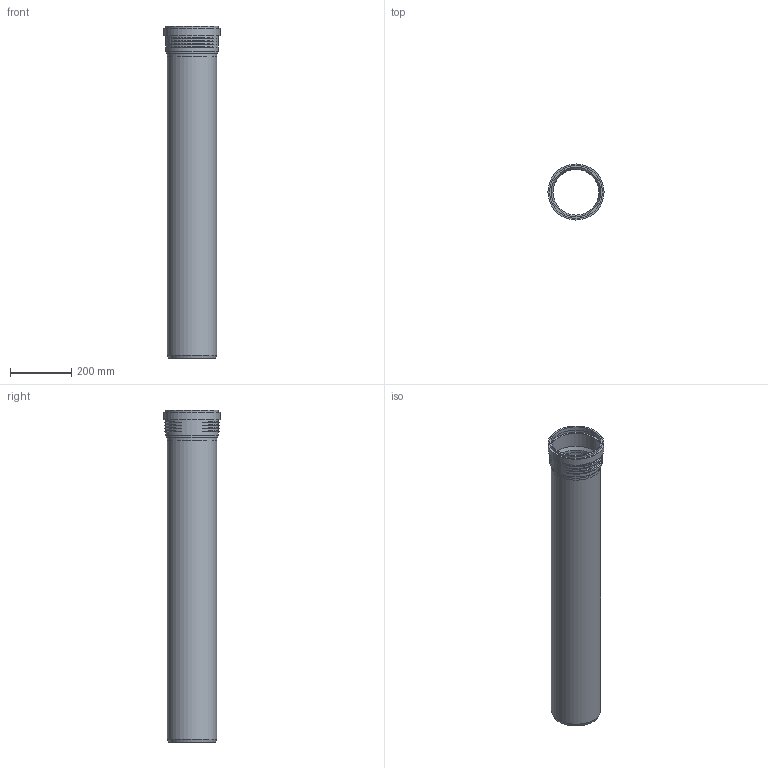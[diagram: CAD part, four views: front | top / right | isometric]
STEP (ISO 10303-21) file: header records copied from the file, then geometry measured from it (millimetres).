
FILE_DESCRIPTION(/* description */ (''),/* implementation_level */ '2;1');
FILE_NAME(/* name */ 'Z:\Geberit\Export\NewStep\390704.stp',/* time_stamp */ '2014-04-02T08:16:24+02:00',/* author */ ('ML'),/* organization */ (''),/* preprocessor_version */ 'ST-DEVELOPER v15.2',/* originating_system */ 'Autodesk Inventor 2014',/* authorisation */ '');
FILE_SCHEMA (('AUTOMOTIVE_DESIGN { 1 0 10303 214 3 1 1 }'));
Length unit declared in the file: millimetre
Products named in the file (3): 861676; 861587ohne; 390704
Bounding box: 182.6 x 182.6 x 1080.6 mm (x, y, z)
Volume: 2819211.9 mm3; surface area: 1097829.1 mm2
Topology: 2 solids, 2 shells, 47 faces, 104 edges, 71 vertices
Faces by surface type: torus 24, cylinder 11, plane 10, cone 2
Full cylindrical faces by diameter (mm): 149.85 x2, 160.25 x2, 161.4 x2, 166.6 x1, 171.8 x2, 172.2 x1, 182.6 x1
Entity records: 2003 total; most frequent: CARTESIAN_POINT 962, DIRECTION 182, ORIENTED_EDGE 174, AXIS2_PLACEMENT_3D 91, EDGE_CURVE 87, EDGE_LOOP 78, VERTEX_POINT 71, STYLED_ITEM 49
